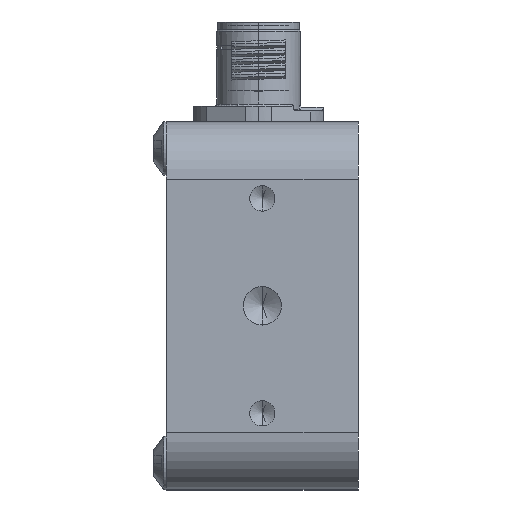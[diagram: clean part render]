
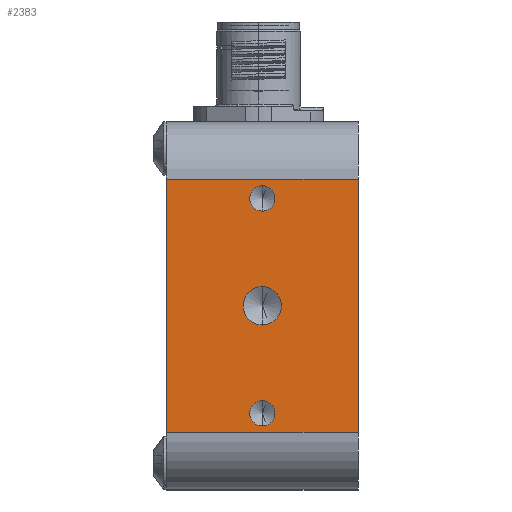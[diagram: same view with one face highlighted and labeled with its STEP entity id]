
A CAD part, left-side view. The second image highlights one B-rep face of the part: STEP entity #2383.
In plain terms, the highlighted planar face has unit normal (-1, 0, 0).
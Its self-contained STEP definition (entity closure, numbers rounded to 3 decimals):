
#238 = EDGE_CURVE ( 'NONE', #19431, #2234, #1227, .T. ) ;
#553 = CARTESIAN_POINT ( 'NONE',  ( 0., 0., 7.5 ) ) ;
#673 = CARTESIAN_POINT ( 'NONE',  ( 0., 12.5, 38. ) ) ;
#1227 = LINE ( 'NONE', #11607, #8133 ) ;
#1284 = EDGE_LOOP ( 'NONE', ( #10500, #10145 ) ) ;
#1285 = EDGE_CURVE ( 'NONE', #13887, #15401, #21100, .T. ) ;
#1366 = ORIENTED_EDGE ( 'NONE', *, *, #29321, .F. ) ;
#1376 = DIRECTION ( 'NONE',  ( 0., 0., 1. ) ) ;
#1709 = VERTEX_POINT ( 'NONE', #8815 ) ;
#1722 = CARTESIAN_POINT ( 'NONE',  ( 0., 0., 40.5 ) ) ;
#1841 = DIRECTION ( 'NONE',  ( -1., 0., 0. ) ) ;
#1972 = EDGE_CURVE ( 'NONE', #2234, #8417, #30260, .T. ) ;
#1976 = DIRECTION ( 'NONE',  ( 0., -1., 0. ) ) ;
#2234 = VERTEX_POINT ( 'NONE', #553 ) ;
#2239 = ORIENTED_EDGE ( 'NONE', *, *, #1285, .F. ) ;
#2383 = ADVANCED_FACE ( 'NONE', ( #30608, #15683, #9144, #10661 ), #28182, .T. ) ;
#3131 = DIRECTION ( 'NONE',  ( -1., 0., 0. ) ) ;
#6417 = DIRECTION ( 'NONE',  ( -1., 0., 0. ) ) ;
#6430 = CIRCLE ( 'NONE', #24165, 1.65 ) ;
#6573 = CARTESIAN_POINT ( 'NONE',  ( 0., 12.5, 21.5 ) ) ;
#6616 = LINE ( 'NONE', #1722, #31503 ) ;
#6885 = CARTESIAN_POINT ( 'NONE',  ( 0., 12.5, 10. ) ) ;
#6965 = ORIENTED_EDGE ( 'NONE', *, *, #18594, .F. ) ;
#7085 = CARTESIAN_POINT ( 'NONE',  ( 0., 25., 0. ) ) ;
#7583 = CIRCLE ( 'NONE', #8945, 2.5 ) ;
#8133 = VECTOR ( 'NONE', #1976, 1000. ) ;
#8417 = VERTEX_POINT ( 'NONE', #15247 ) ;
#8475 = CARTESIAN_POINT ( 'NONE',  ( 0., 0., 0. ) ) ;
#8509 = EDGE_CURVE ( 'NONE', #8602, #10812, #18526, .T. ) ;
#8602 = VERTEX_POINT ( 'NONE', #13517 ) ;
#8754 = DIRECTION ( 'NONE',  ( 0., 0., 1. ) ) ;
#8780 = VECTOR ( 'NONE', #23719, 1000. ) ;
#8804 = DIRECTION ( 'NONE',  ( 0., 1., 0. ) ) ;
#8815 = CARTESIAN_POINT ( 'NONE',  ( 0., 25., 40.5 ) ) ;
#8945 = AXIS2_PLACEMENT_3D ( 'NONE', #27841, #15861, #15763 ) ;
#9144 = FACE_BOUND ( 'NONE', #21031, .T. ) ;
#10145 = ORIENTED_EDGE ( 'NONE', *, *, #8509, .F. ) ;
#10500 = ORIENTED_EDGE ( 'NONE', *, *, #24325, .F. ) ;
#10522 = VERTEX_POINT ( 'NONE', #23173 ) ;
#10661 = FACE_OUTER_BOUND ( 'NONE', #20123, .T. ) ;
#10718 = CIRCLE ( 'NONE', #26373, 1.65 ) ;
#10812 = VERTEX_POINT ( 'NONE', #24126 ) ;
#11003 = AXIS2_PLACEMENT_3D ( 'NONE', #673, #3131, #25397 ) ;
#11607 = CARTESIAN_POINT ( 'NONE',  ( 0., 0., 7.5 ) ) ;
#13068 = CARTESIAN_POINT ( 'NONE',  ( 0., 12.5, 26.5 ) ) ;
#13298 = DIRECTION ( 'NONE',  ( 0., 0., 1. ) ) ;
#13370 = CARTESIAN_POINT ( 'NONE',  ( 0., 12.5, 38. ) ) ;
#13517 = CARTESIAN_POINT ( 'NONE',  ( 0., 12.5, 36.35 ) ) ;
#13559 = AXIS2_PLACEMENT_3D ( 'NONE', #27911, #25225, #30156 ) ;
#13887 = VERTEX_POINT ( 'NONE', #6573 ) ;
#14156 = DIRECTION ( 'NONE',  ( 0., 0., 1. ) ) ;
#14298 = EDGE_LOOP ( 'NONE', ( #30480, #29586 ) ) ;
#14467 = DIRECTION ( 'NONE',  ( 0., 0., 1. ) ) ;
#15247 = CARTESIAN_POINT ( 'NONE',  ( 0., 0., 40.5 ) ) ;
#15401 = VERTEX_POINT ( 'NONE', #13068 ) ;
#15683 = FACE_BOUND ( 'NONE', #1284, .T. ) ;
#15763 = DIRECTION ( 'NONE',  ( 0., 0., 1. ) ) ;
#15861 = DIRECTION ( 'NONE',  ( -1., 0., 0. ) ) ;
#15954 = DIRECTION ( 'NONE',  ( -1., 0., 0. ) ) ;
#16079 = CARTESIAN_POINT ( 'NONE',  ( 0., 12.5, 10. ) ) ;
#17765 = AXIS2_PLACEMENT_3D ( 'NONE', #13370, #15954, #8754 ) ;
#17879 = AXIS2_PLACEMENT_3D ( 'NONE', #8475, #25602, #13298 ) ;
#18229 = VECTOR ( 'NONE', #14467, 1000. ) ;
#18526 = CIRCLE ( 'NONE', #11003, 1.65 ) ;
#18594 = EDGE_CURVE ( 'NONE', #15401, #13887, #7583, .T. ) ;
#18733 = EDGE_CURVE ( 'NONE', #19203, #10522, #6430, .T. ) ;
#19203 = VERTEX_POINT ( 'NONE', #25651 ) ;
#19431 = VERTEX_POINT ( 'NONE', #30116 ) ;
#19587 = ORIENTED_EDGE ( 'NONE', *, *, #238, .T. ) ;
#20123 = EDGE_LOOP ( 'NONE', ( #1366, #19587, #20855, #22489 ) ) ;
#20855 = ORIENTED_EDGE ( 'NONE', *, *, #1972, .T. ) ;
#21031 = EDGE_LOOP ( 'NONE', ( #6965, #2239 ) ) ;
#21100 = CIRCLE ( 'NONE', #13559, 2.5 ) ;
#22489 = ORIENTED_EDGE ( 'NONE', *, *, #31062, .T. ) ;
#23173 = CARTESIAN_POINT ( 'NONE',  ( 0., 12.5, 8.35 ) ) ;
#23719 = DIRECTION ( 'NONE',  ( 0., 0., 1. ) ) ;
#24126 = CARTESIAN_POINT ( 'NONE',  ( 0., 12.5, 39.65 ) ) ;
#24165 = AXIS2_PLACEMENT_3D ( 'NONE', #16079, #6417, #1376 ) ;
#24325 = EDGE_CURVE ( 'NONE', #10812, #8602, #31791, .T. ) ;
#24918 = EDGE_CURVE ( 'NONE', #10522, #19203, #10718, .T. ) ;
#25225 = DIRECTION ( 'NONE',  ( -1., 0., 0. ) ) ;
#25397 = DIRECTION ( 'NONE',  ( 0., 0., 1. ) ) ;
#25602 = DIRECTION ( 'NONE',  ( -1., 0., 0. ) ) ;
#25651 = CARTESIAN_POINT ( 'NONE',  ( 0., 12.5, 11.65 ) ) ;
#26373 = AXIS2_PLACEMENT_3D ( 'NONE', #6885, #1841, #14156 ) ;
#26580 = CARTESIAN_POINT ( 'NONE',  ( 0., 0., 0. ) ) ;
#27800 = LINE ( 'NONE', #7085, #18229 ) ;
#27841 = CARTESIAN_POINT ( 'NONE',  ( 0., 12.5, 24. ) ) ;
#27911 = CARTESIAN_POINT ( 'NONE',  ( 0., 12.5, 24. ) ) ;
#28182 = PLANE ( 'NONE',  #17879 ) ;
#29321 = EDGE_CURVE ( 'NONE', #19431, #1709, #27800, .T. ) ;
#29586 = ORIENTED_EDGE ( 'NONE', *, *, #24918, .F. ) ;
#30116 = CARTESIAN_POINT ( 'NONE',  ( 0., 25., 7.5 ) ) ;
#30156 = DIRECTION ( 'NONE',  ( 0., 0., 1. ) ) ;
#30260 = LINE ( 'NONE', #26580, #8780 ) ;
#30480 = ORIENTED_EDGE ( 'NONE', *, *, #18733, .F. ) ;
#30608 = FACE_BOUND ( 'NONE', #14298, .T. ) ;
#31062 = EDGE_CURVE ( 'NONE', #8417, #1709, #6616, .T. ) ;
#31503 = VECTOR ( 'NONE', #8804, 1000. ) ;
#31791 = CIRCLE ( 'NONE', #17765, 1.65 ) ;
